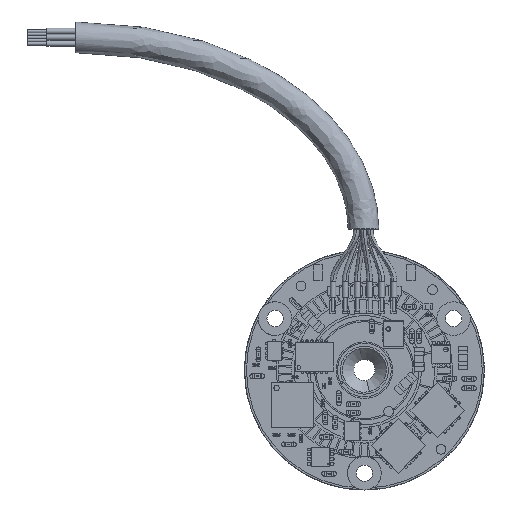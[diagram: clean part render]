
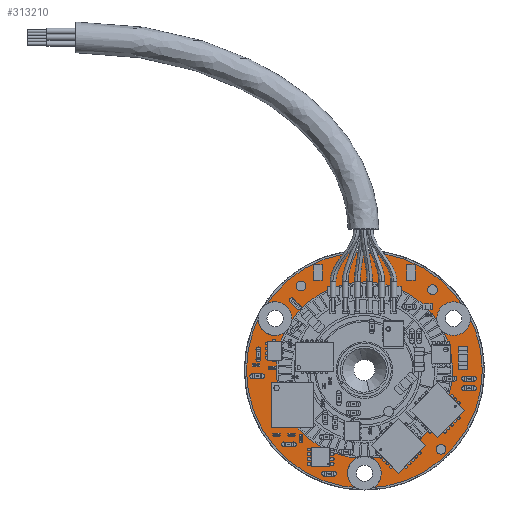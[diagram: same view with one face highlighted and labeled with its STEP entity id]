
A CAD part, front view. The second image highlights one B-rep face of the part: STEP entity #313210.
In plain terms, the highlighted planar face has unit normal (0, 1, 0).
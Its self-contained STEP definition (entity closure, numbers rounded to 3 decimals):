
#3798 = CARTESIAN_POINT ( 'NONE',  ( 0., 2.17, 9.2 ) ) ;
#7428 = DIRECTION ( 'NONE',  ( 0., 0., 1. ) ) ;
#16985 = CIRCLE ( 'NONE', #55522, 9.2 ) ;
#22879 = AXIS2_PLACEMENT_3D ( 'NONE', #232235, #206189, #311760 ) ;
#27345 = EDGE_CURVE ( 'NONE', #227199, #87139, #29846, .T. ) ;
#27563 = EDGE_CURVE ( 'NONE', #168539, #176809, #118279, .T. ) ;
#29846 = CIRCLE ( 'NONE', #289731, 0.85 ) ;
#34955 = DIRECTION ( 'NONE',  ( 0., 1., 0. ) ) ;
#38765 = ORIENTED_EDGE ( 'NONE', *, *, #27563, .F. ) ;
#40374 = EDGE_LOOP ( 'NONE', ( #192320, #147609 ) ) ;
#46215 = FACE_BOUND ( 'NONE', #114191, .T. ) ;
#50984 = VERTEX_POINT ( 'NONE', #182022 ) ;
#51340 = ORIENTED_EDGE ( 'NONE', *, *, #137238, .T. ) ;
#55522 = AXIS2_PLACEMENT_3D ( 'NONE', #293472, #132561, #189687 ) ;
#56434 = AXIS2_PLACEMENT_3D ( 'NONE', #122371, #309233, #177811 ) ;
#65266 = CARTESIAN_POINT ( 'NONE',  ( 9.31, 2.17, 5.375 ) ) ;
#65311 = ORIENTED_EDGE ( 'NONE', *, *, #323863, .F. ) ;
#66098 = CARTESIAN_POINT ( 'NONE',  ( -9.31, 2.17, 4.525 ) ) ;
#66928 = AXIS2_PLACEMENT_3D ( 'NONE', #65266, #240749, #170858 ) ;
#72148 = FACE_BOUND ( 'NONE', #40374, .T. ) ;
#75931 = ORIENTED_EDGE ( 'NONE', *, *, #296014, .F. ) ;
#80672 = DIRECTION ( 'NONE',  ( 0., 1., 0. ) ) ;
#81388 = EDGE_CURVE ( 'NONE', #222220, #112846, #99282, .T. ) ;
#83062 = DIRECTION ( 'NONE',  ( 0., 1., 0. ) ) ;
#86023 = DIRECTION ( 'NONE',  ( 0., 0., 1. ) ) ;
#87139 = VERTEX_POINT ( 'NONE', #218831 ) ;
#95249 = ORIENTED_EDGE ( 'NONE', *, *, #280467, .F. ) ;
#99282 = CIRCLE ( 'NONE', #187873, 0.85 ) ;
#101855 = CARTESIAN_POINT ( 'NONE',  ( 0., 2.17, -12.3 ) ) ;
#102452 = DIRECTION ( 'NONE',  ( 0., 0., 1. ) ) ;
#111077 = CIRCLE ( 'NONE', #304541, 0.85 ) ;
#112846 = VERTEX_POINT ( 'NONE', #137841 ) ;
#114191 = EDGE_LOOP ( 'NONE', ( #65311, #303612 ) ) ;
#116967 = VERTEX_POINT ( 'NONE', #209310 ) ;
#118279 = CIRCLE ( 'NONE', #311755, 9.2 ) ;
#119232 = ORIENTED_EDGE ( 'NONE', *, *, #324121, .T. ) ;
#122371 = CARTESIAN_POINT ( 'NONE',  ( 0., 2.17, 0. ) ) ;
#128434 = CARTESIAN_POINT ( 'NONE',  ( 9.31, 2.17, 5.375 ) ) ;
#132561 = DIRECTION ( 'NONE',  ( 0., 1., 0. ) ) ;
#133568 = DIRECTION ( 'NONE',  ( 0., 1., 0. ) ) ;
#134505 = CARTESIAN_POINT ( 'NONE',  ( 0., 2.17, -9.2 ) ) ;
#137238 = EDGE_CURVE ( 'NONE', #116967, #241291, #278460, .T. ) ;
#137841 = CARTESIAN_POINT ( 'NONE',  ( 0., 2.17, -9.9 ) ) ;
#140552 = DIRECTION ( 'NONE',  ( 0., 1., 0. ) ) ;
#147609 = ORIENTED_EDGE ( 'NONE', *, *, #27345, .F. ) ;
#155888 = DIRECTION ( 'NONE',  ( 0., 0., 1. ) ) ;
#160323 = CARTESIAN_POINT ( 'NONE',  ( 0., 2.17, -10.75 ) ) ;
#167889 = AXIS2_PLACEMENT_3D ( 'NONE', #217700, #313391, #86023 ) ;
#168539 = VERTEX_POINT ( 'NONE', #3798 ) ;
#170858 = DIRECTION ( 'NONE',  ( 0., 0., 1. ) ) ;
#172627 = CARTESIAN_POINT ( 'NONE',  ( 0., 2.17, 0. ) ) ;
#176809 = VERTEX_POINT ( 'NONE', #134505 ) ;
#177811 = DIRECTION ( 'NONE',  ( 0., 0., 1. ) ) ;
#179273 = EDGE_CURVE ( 'NONE', #87139, #227199, #267224, .T. ) ;
#182022 = CARTESIAN_POINT ( 'NONE',  ( 9.31, 2.17, 4.525 ) ) ;
#187873 = AXIS2_PLACEMENT_3D ( 'NONE', #160323, #80672, #342051 ) ;
#189687 = DIRECTION ( 'NONE',  ( 0., 0., 1. ) ) ;
#190717 = CARTESIAN_POINT ( 'NONE',  ( 0., 2.17, -11.6 ) ) ;
#191859 = DIRECTION ( 'NONE',  ( 0., 0., 1. ) ) ;
#192320 = ORIENTED_EDGE ( 'NONE', *, *, #179273, .F. ) ;
#195255 = DIRECTION ( 'NONE',  ( 0., 1., 0. ) ) ;
#206189 = DIRECTION ( 'NONE',  ( 0., 1., 0. ) ) ;
#209310 = CARTESIAN_POINT ( 'NONE',  ( 0., 2.17, 12.3 ) ) ;
#210282 = CIRCLE ( 'NONE', #315484, 0.85 ) ;
#211813 = FACE_OUTER_BOUND ( 'NONE', #245945, .T. ) ;
#217700 = CARTESIAN_POINT ( 'NONE',  ( -9.31, 2.17, 5.375 ) ) ;
#218831 = CARTESIAN_POINT ( 'NONE',  ( -9.31, 2.17, 6.225 ) ) ;
#222220 = VERTEX_POINT ( 'NONE', #190717 ) ;
#227199 = VERTEX_POINT ( 'NONE', #66098 ) ;
#229766 = FACE_BOUND ( 'NONE', #273016, .T. ) ;
#232235 = CARTESIAN_POINT ( 'NONE',  ( 0., 2.17, 0. ) ) ;
#240749 = DIRECTION ( 'NONE',  ( 0., 1., 0. ) ) ;
#241291 = VERTEX_POINT ( 'NONE', #101855 ) ;
#245464 = AXIS2_PLACEMENT_3D ( 'NONE', #172627, #195255, #191859 ) ;
#245945 = EDGE_LOOP ( 'NONE', ( #119232, #51340 ) ) ;
#246215 = CARTESIAN_POINT ( 'NONE',  ( -9.31, 2.17, 5.375 ) ) ;
#253969 = PLANE ( 'NONE',  #56434 ) ;
#267224 = CIRCLE ( 'NONE', #167889, 0.85 ) ;
#268227 = VERTEX_POINT ( 'NONE', #328930 ) ;
#270421 = EDGE_CURVE ( 'NONE', #50984, #268227, #315682, .T. ) ;
#273016 = EDGE_LOOP ( 'NONE', ( #75931, #38765 ) ) ;
#277211 = DIRECTION ( 'NONE',  ( 0., 0., 1. ) ) ;
#278460 = CIRCLE ( 'NONE', #245464, 12.3 ) ;
#280467 = EDGE_CURVE ( 'NONE', #268227, #50984, #210282, .T. ) ;
#286767 = EDGE_LOOP ( 'NONE', ( #95249, #295556 ) ) ;
#289731 = AXIS2_PLACEMENT_3D ( 'NONE', #246215, #34955, #277211 ) ;
#292533 = CARTESIAN_POINT ( 'NONE',  ( 0., 2.17, 0. ) ) ;
#293472 = CARTESIAN_POINT ( 'NONE',  ( 0., 2.17, 0. ) ) ;
#293703 = CIRCLE ( 'NONE', #22879, 12.3 ) ;
#295556 = ORIENTED_EDGE ( 'NONE', *, *, #270421, .F. ) ;
#296014 = EDGE_CURVE ( 'NONE', #176809, #168539, #16985, .T. ) ;
#303612 = ORIENTED_EDGE ( 'NONE', *, *, #81388, .F. ) ;
#304541 = AXIS2_PLACEMENT_3D ( 'NONE', #325760, #140552, #7428 ) ;
#305827 = FACE_BOUND ( 'NONE', #286767, .T. ) ;
#309233 = DIRECTION ( 'NONE',  ( 0., 1., 0. ) ) ;
#311755 = AXIS2_PLACEMENT_3D ( 'NONE', #292533, #83062, #155888 ) ;
#311760 = DIRECTION ( 'NONE',  ( 0., 0., 1. ) ) ;
#313210 = ADVANCED_FACE ( 'NONE', ( #46215, #305827, #72148, #211813, #229766 ), #253969, .T. ) ;
#313391 = DIRECTION ( 'NONE',  ( 0., 1., 0. ) ) ;
#315484 = AXIS2_PLACEMENT_3D ( 'NONE', #128434, #133568, #102452 ) ;
#315682 = CIRCLE ( 'NONE', #66928, 0.85 ) ;
#323863 = EDGE_CURVE ( 'NONE', #112846, #222220, #111077, .T. ) ;
#324121 = EDGE_CURVE ( 'NONE', #241291, #116967, #293703, .T. ) ;
#325760 = CARTESIAN_POINT ( 'NONE',  ( 0., 2.17, -10.75 ) ) ;
#328930 = CARTESIAN_POINT ( 'NONE',  ( 9.31, 2.17, 6.225 ) ) ;
#342051 = DIRECTION ( 'NONE',  ( 0., 0., 1. ) ) ;
